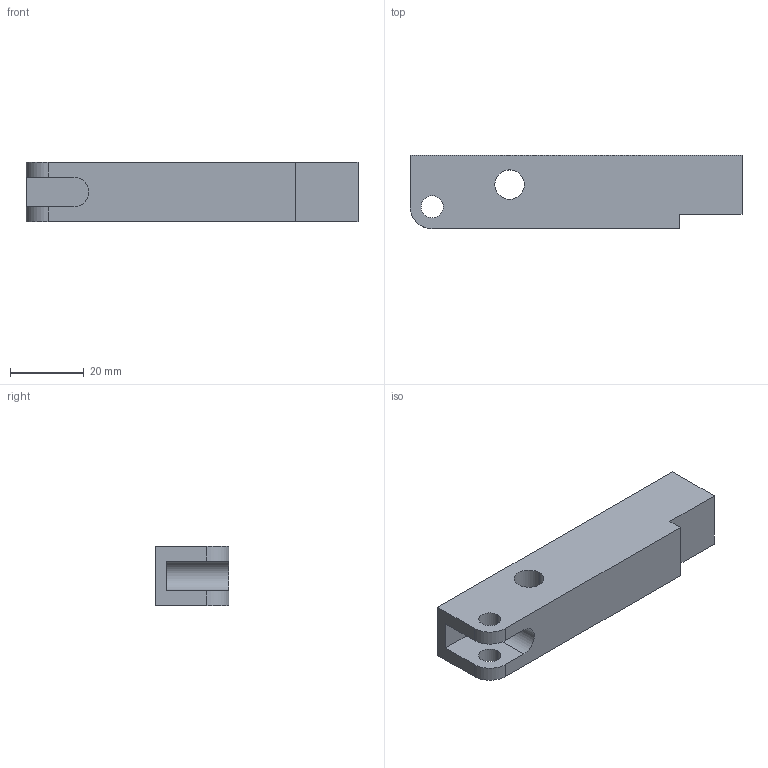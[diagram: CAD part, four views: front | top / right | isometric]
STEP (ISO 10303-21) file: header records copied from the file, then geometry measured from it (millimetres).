
FILE_DESCRIPTION (( 'STEP AP203' ), '1' );
FILE_NAME ('4193 452.STEP', '2017-11-29T09:50:05', ( '' ), ( '' ), 'SwSTEP 2.0', 'SolidWorks 2015', '' );
FILE_SCHEMA (( 'CONFIG_CONTROL_DESIGN' ));
Length unit declared in the file: millimetre
Products named in the file (1): 4193 452
Bounding box: 90 x 20 x 16 mm (x, y, z)
Volume: 24424.5 mm3; surface area: 7791.4 mm2
Topology: 1 solids, 1 shells, 20 faces, 54 edges, 36 vertices
Faces by surface type: plane 11, cylinder 9
Entity records: 725 total; most frequent: DIRECTION 114, CARTESIAN_POINT 111, ORIENTED_EDGE 108, EDGE_CURVE 54, AXIS2_PLACEMENT_3D 39, LINE 36, VECTOR 36, VERTEX_POINT 36
